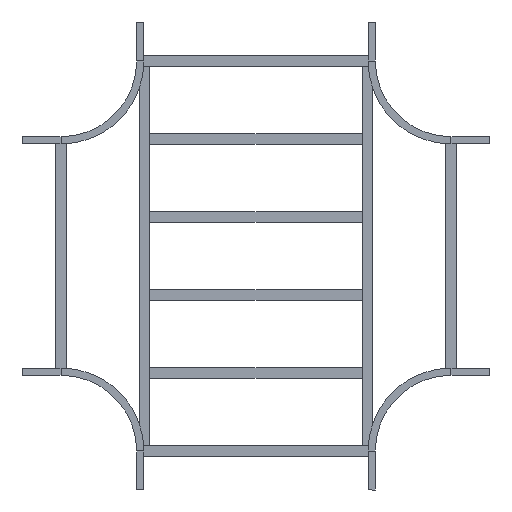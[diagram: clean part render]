
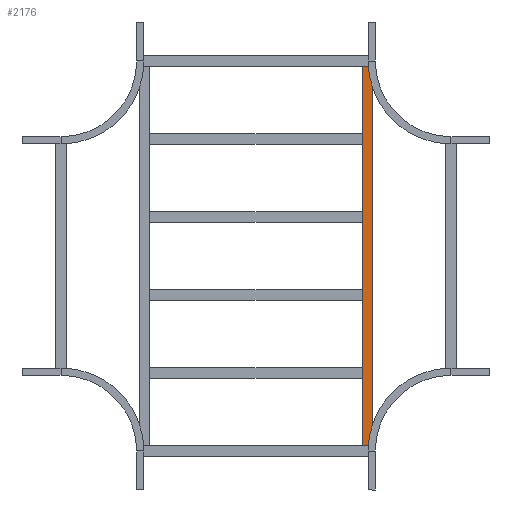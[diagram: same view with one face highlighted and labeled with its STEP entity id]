
A CAD part, front view. The second image highlights one B-rep face of the part: STEP entity #2176.
In plain terms, the highlighted planar face has unit normal (0, -1, 0).
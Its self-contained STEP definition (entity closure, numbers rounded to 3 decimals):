
#50 = CARTESIAN_POINT ( 'NONE',  ( 729.75, 0., 20.25 ) ) ;
#66 = ORIENTED_EDGE ( 'NONE', *, *, #246, .F. ) ;
#221 = VERTEX_POINT ( 'NONE', #876 ) ;
#222 = EDGE_CURVE ( 'NONE', #1926, #1941, #1544, .T. ) ;
#246 = EDGE_CURVE ( 'NONE', #275, #1941, #1953, .T. ) ;
#275 = VERTEX_POINT ( 'NONE', #1977 ) ;
#412 = DIRECTION ( 'NONE',  ( 0., 1., 0. ) ) ;
#474 = CARTESIAN_POINT ( 'NONE',  ( -729.75, 0., 20.25 ) ) ;
#567 = VECTOR ( 'NONE', #733, 1000. ) ;
#733 = DIRECTION ( 'NONE',  ( 0., 0., -1. ) ) ;
#876 = CARTESIAN_POINT ( 'NONE',  ( 729.75, 0., 20.25 ) ) ;
#1066 = FACE_OUTER_BOUND ( 'NONE', #1579, .T. ) ;
#1332 = CARTESIAN_POINT ( 'NONE',  ( 729.75, 0., -20.25 ) ) ;
#1446 = VECTOR ( 'NONE', #2817, 1000. ) ;
#1544 = LINE ( 'NONE', #474, #1617 ) ;
#1561 = AXIS2_PLACEMENT_3D ( 'NONE', #1954, #412, #2566 ) ;
#1579 = EDGE_LOOP ( 'NONE', ( #2749, #66, #2554, #2319 ) ) ;
#1588 = LINE ( 'NONE', #2701, #567 ) ;
#1600 = EDGE_CURVE ( 'NONE', #221, #1926, #2180, .T. ) ;
#1603 = CARTESIAN_POINT ( 'NONE',  ( -729.75, 0., -20.25 ) ) ;
#1617 = VECTOR ( 'NONE', #1748, 1000. ) ;
#1748 = DIRECTION ( 'NONE',  ( 0., 0., -1. ) ) ;
#1749 = PLANE ( 'NONE',  #1561 ) ;
#1808 = CARTESIAN_POINT ( 'NONE',  ( -729.75, 0., 20.25 ) ) ;
#1926 = VERTEX_POINT ( 'NONE', #1808 ) ;
#1939 = EDGE_CURVE ( 'NONE', #221, #275, #1588, .T. ) ;
#1941 = VERTEX_POINT ( 'NONE', #1603 ) ;
#1953 = LINE ( 'NONE', #1332, #1446 ) ;
#1954 = CARTESIAN_POINT ( 'NONE',  ( 729.75, 0., 20.25 ) ) ;
#1977 = CARTESIAN_POINT ( 'NONE',  ( 729.75, 0., -20.25 ) ) ;
#2069 = VECTOR ( 'NONE', #2822, 1000. ) ;
#2176 = ADVANCED_FACE ( 'NONE', ( #1066 ), #1749, .F. ) ;
#2180 = LINE ( 'NONE', #50, #2069 ) ;
#2319 = ORIENTED_EDGE ( 'NONE', *, *, #1600, .T. ) ;
#2554 = ORIENTED_EDGE ( 'NONE', *, *, #1939, .F. ) ;
#2566 = DIRECTION ( 'NONE',  ( 0., 0., 1. ) ) ;
#2701 = CARTESIAN_POINT ( 'NONE',  ( 729.75, 0., 20.25 ) ) ;
#2749 = ORIENTED_EDGE ( 'NONE', *, *, #222, .T. ) ;
#2817 = DIRECTION ( 'NONE',  ( -1., 0., 0. ) ) ;
#2822 = DIRECTION ( 'NONE',  ( -1., 0., 0. ) ) ;
